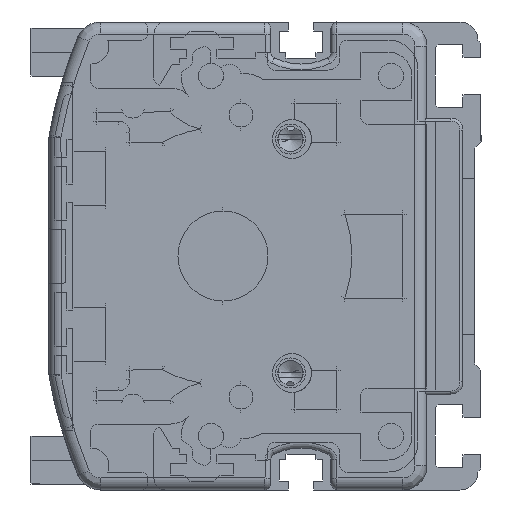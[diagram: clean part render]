
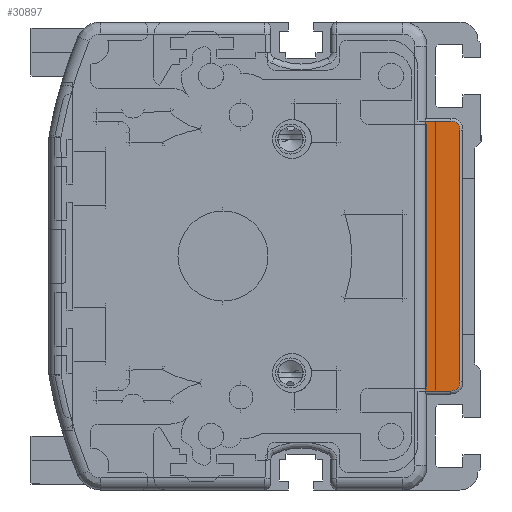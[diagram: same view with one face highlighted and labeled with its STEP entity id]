
A CAD part, left-side view. The second image highlights one B-rep face of the part: STEP entity #30897.
In plain terms, the highlighted planar face has unit normal (-1, 0, 0).
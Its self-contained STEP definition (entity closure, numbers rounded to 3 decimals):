
#25452=DIRECTION('',(0.,0.,-1.));
#25453=VECTOR('',#25452,45.);
#25454=CARTESIAN_POINT('',(-2.,9.268,22.5));
#25455=LINE('',#25454,#25453);
#25487=CARTESIAN_POINT('',(-2.,5.,21.));
#25488=DIRECTION('',(1.,0.,0.));
#25489=DIRECTION('',(0.,0.,1.));
#25490=AXIS2_PLACEMENT_3D('',#25487,#25488,#25489);
#25492=CARTESIAN_POINT('',(-2.,5.,-21.));
#25493=DIRECTION('',(1.,0.,0.));
#25494=DIRECTION('',(0.,-1.,0.));
#25495=AXIS2_PLACEMENT_3D('',#25492,#25493,#25494);
#25501=DIRECTION('',(0.,-1.,0.));
#25502=VECTOR('',#25501,4.268);
#25503=CARTESIAN_POINT('',(-2.,9.268,-22.5));
#25504=LINE('',#25503,#25502);
#26035=DIRECTION('',(0.,0.,1.));
#26036=VECTOR('',#26035,42.);
#26037=CARTESIAN_POINT('',(-2.,3.5,-21.));
#26038=LINE('',#26037,#26036);
#26058=DIRECTION('',(0.,1.,0.));
#26059=VECTOR('',#26058,4.268);
#26060=CARTESIAN_POINT('',(-2.,5.,22.5));
#26061=LINE('',#26060,#26059);
#29344=CARTESIAN_POINT('',(-2.,9.268,22.5));
#29345=CARTESIAN_POINT('',(-2.,9.268,-22.5));
#29346=VERTEX_POINT('',#29344);
#29347=VERTEX_POINT('',#29345);
#29357=CARTESIAN_POINT('',(-2.,5.,-22.5));
#29358=VERTEX_POINT('',#29357);
#29359=CARTESIAN_POINT('',(-2.,3.5,-21.));
#29360=VERTEX_POINT('',#29359);
#29361=CARTESIAN_POINT('',(-2.,3.5,21.));
#29362=VERTEX_POINT('',#29361);
#29363=CARTESIAN_POINT('',(-2.,5.,22.5));
#29364=VERTEX_POINT('',#29363);
#30879=CARTESIAN_POINT('',(-2.,6.384,0.));
#30880=DIRECTION('',(1.,0.,0.));
#30881=DIRECTION('',(0.,0.,-1.));
#30882=AXIS2_PLACEMENT_3D('',#30879,#30880,#30881);
#30883=PLANE('',#30882);
#30885=ORIENTED_EDGE('',*,*,#30884,.F.);
#30886=ORIENTED_EDGE('',*,*,#30858,.F.);
#30888=ORIENTED_EDGE('',*,*,#30887,.F.);
#30890=ORIENTED_EDGE('',*,*,#30889,.T.);
#30892=ORIENTED_EDGE('',*,*,#30891,.F.);
#30894=ORIENTED_EDGE('',*,*,#30893,.T.);
#30895=EDGE_LOOP('',(#30885,#30886,#30888,#30890,#30892,#30894));
#30896=FACE_OUTER_BOUND('',#30895,.F.);
#30897=ADVANCED_FACE('',(#30896),#30883,.F.);
#25491=CIRCLE('',#25490,1.5);
#25496=CIRCLE('',#25495,1.5);
#30858=EDGE_CURVE('',#29346,#29347,#25455,.T.);
#30884=EDGE_CURVE('',#29347,#29358,#25504,.T.);
#30887=EDGE_CURVE('',#29364,#29346,#26061,.T.);
#30889=EDGE_CURVE('',#29364,#29362,#25491,.T.);
#30891=EDGE_CURVE('',#29360,#29362,#26038,.T.);
#30893=EDGE_CURVE('',#29360,#29358,#25496,.T.);
